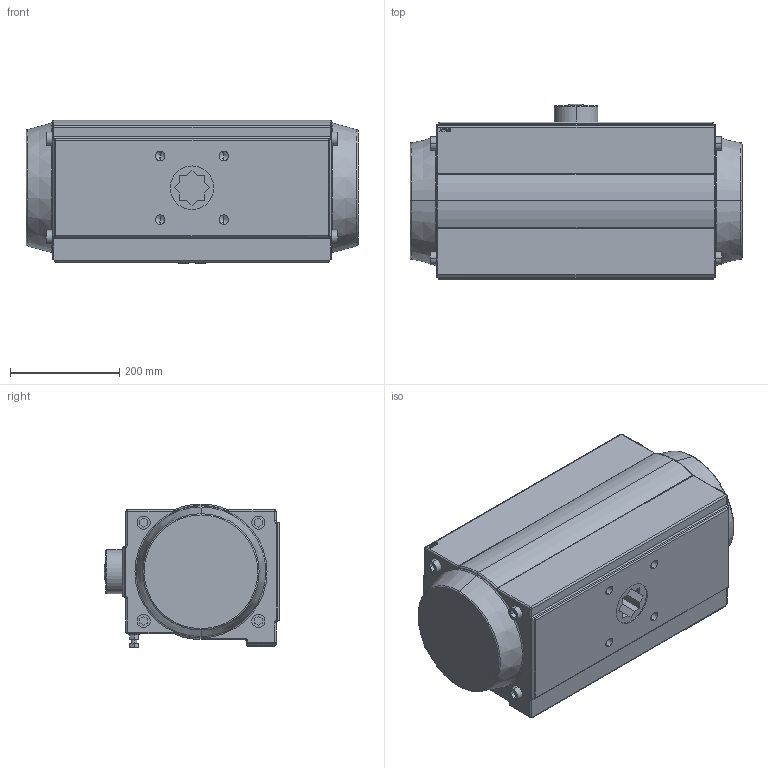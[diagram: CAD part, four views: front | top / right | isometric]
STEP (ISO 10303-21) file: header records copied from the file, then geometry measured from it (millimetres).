
FILE_DESCRIPTION (( 'STEP AP203' ), '1' );
FILE_NAME ('AP240.STEP', '2020-04-08T11:55:46', ( '' ), ( '' ), 'SwSTEP 2.0', 'SolidWorks 2017', '' );
FILE_SCHEMA (( 'CONFIG_CONTROL_DESIGN' ));
Length unit declared in the file: millimetre
Products named in the file (1): AP240
Bounding box: 608 x 322 x 263.4 mm (x, y, z)
Volume: 38370357.3 mm3; surface area: 760500.5 mm2
Topology: 1 solids, 1 shells, 493 faces, 1180 edges, 719 vertices
Faces by surface type: plane 213, cylinder 118, bspline 62, cone 60, torus 38, sphere 2
Entity records: 16991 total; most frequent: CARTESIAN_POINT 5995, ORIENTED_EDGE 2304, DIRECTION 2168, EDGE_CURVE 1152, AXIS2_PLACEMENT_3D 756, VERTEX_POINT 719, VECTOR 656, LINE 656
